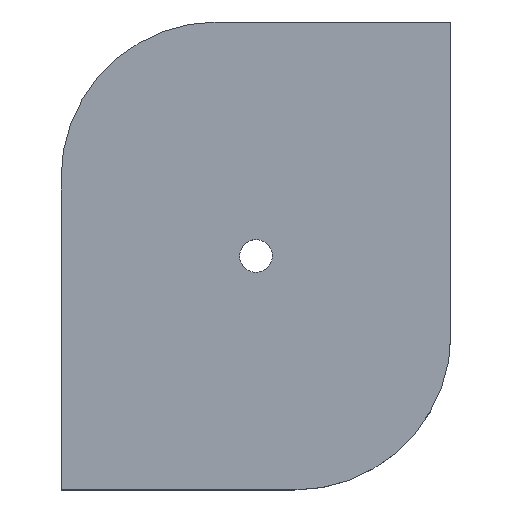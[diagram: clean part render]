
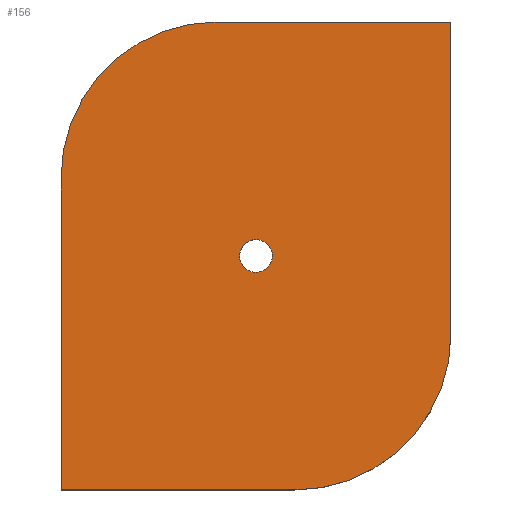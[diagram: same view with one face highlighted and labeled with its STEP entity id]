
A CAD part, top view. The second image highlights one B-rep face of the part: STEP entity #156.
In plain terms, the highlighted planar face has unit normal (0, 0, 1).
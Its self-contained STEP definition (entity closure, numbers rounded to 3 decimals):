
#63=CARTESIAN_POINT('Vertex',(46.325,62.008,15.)) ;
#77=CARTESIAN_POINT('Vertex',(53.675,57.992,15.)) ;
#80=CARTESIAN_POINT('Axis2P3D Location',(50.,60.,15.)) ;
#92=CARTESIAN_POINT('Axis2P3D Location',(0.,0.,15.)) ;
#97=CARTESIAN_POINT('Line Origine',(0.,40.,15.)) ;
#101=CARTESIAN_POINT('Vertex',(0.,80.,15.)) ;
#103=CARTESIAN_POINT('Vertex',(0.,0.,15.)) ;
#106=CARTESIAN_POINT('Line Origine',(30.,0.,15.)) ;
#110=CARTESIAN_POINT('Vertex',(60.,0.,15.)) ;
#113=CARTESIAN_POINT('Axis2P3D Location',(60.,40.,15.)) ;
#117=CARTESIAN_POINT('Vertex',(100.,40.,15.)) ;
#120=CARTESIAN_POINT('Line Origine',(100.,80.,15.)) ;
#124=CARTESIAN_POINT('Vertex',(100.,120.,15.)) ;
#127=CARTESIAN_POINT('Line Origine',(70.,120.,15.)) ;
#131=CARTESIAN_POINT('Vertex',(40.,120.,15.)) ;
#134=CARTESIAN_POINT('Axis2P3D Location',(40.,80.,15.)) ;
#147=CARTESIAN_POINT('Axis2P3D Location',(50.,60.,15.)) ;
#81=DIRECTION('Axis2P3D Direction',(0.,-0.,-1.)) ;
#93=DIRECTION('Axis2P3D Direction',(0.,0.,1.)) ;
#94=DIRECTION('Axis2P3D XDirection',(1.,0.,0.)) ;
#98=DIRECTION('Vector Direction',(0.,-1.,0.)) ;
#107=DIRECTION('Vector Direction',(1.,0.,0.)) ;
#114=DIRECTION('Axis2P3D Direction',(0.,0.,1.)) ;
#121=DIRECTION('Vector Direction',(0.,1.,0.)) ;
#128=DIRECTION('Vector Direction',(-1.,0.,0.)) ;
#135=DIRECTION('Axis2P3D Direction',(0.,0.,1.)) ;
#148=DIRECTION('Axis2P3D Direction',(0.,0.,1.)) ;
#82=AXIS2_PLACEMENT_3D('Circle Axis2P3D',#80,#81,$) ;
#95=AXIS2_PLACEMENT_3D('Plane Axis2P3D',#92,#93,#94) ;
#115=AXIS2_PLACEMENT_3D('Circle Axis2P3D',#113,#114,$) ;
#136=AXIS2_PLACEMENT_3D('Circle Axis2P3D',#134,#135,$) ;
#149=AXIS2_PLACEMENT_3D('Circle Axis2P3D',#147,#148,$) ;
#140=ORIENTED_EDGE('',*,*,#105,.T.) ;
#141=ORIENTED_EDGE('',*,*,#112,.T.) ;
#142=ORIENTED_EDGE('',*,*,#119,.F.) ;
#143=ORIENTED_EDGE('',*,*,#126,.T.) ;
#144=ORIENTED_EDGE('',*,*,#133,.T.) ;
#145=ORIENTED_EDGE('',*,*,#138,.F.) ;
#153=ORIENTED_EDGE('',*,*,#151,.F.) ;
#154=ORIENTED_EDGE('',*,*,#84,.F.) ;
#155=FACE_BOUND('',#152,.T.) ;
#99=VECTOR('Line Direction',#98,1.) ;
#108=VECTOR('Line Direction',#107,1.) ;
#122=VECTOR('Line Direction',#121,1.) ;
#129=VECTOR('Line Direction',#128,1.) ;
#156=ADVANCED_FACE('PartBody',(#146,#155),#96,.T.) ;
#83=CIRCLE('generated circle',#82,4.188) ;
#116=CIRCLE('generated circle',#115,40.) ;
#137=CIRCLE('generated circle',#136,40.) ;
#150=CIRCLE('generated circle',#149,4.188) ;
#84=EDGE_CURVE('',#78,#64,#83,.F.) ;
#105=EDGE_CURVE('',#102,#104,#100,.T.) ;
#112=EDGE_CURVE('',#104,#111,#109,.T.) ;
#119=EDGE_CURVE('',#118,#111,#116,.F.) ;
#126=EDGE_CURVE('',#118,#125,#123,.T.) ;
#133=EDGE_CURVE('',#125,#132,#130,.T.) ;
#138=EDGE_CURVE('',#102,#132,#137,.F.) ;
#151=EDGE_CURVE('',#64,#78,#150,.T.) ;
#139=EDGE_LOOP('',(#140,#141,#142,#143,#144,#145)) ;
#152=EDGE_LOOP('',(#153,#154)) ;
#146=FACE_OUTER_BOUND('',#139,.T.) ;
#100=LINE('Line',#97,#99) ;
#109=LINE('Line',#106,#108) ;
#123=LINE('Line',#120,#122) ;
#130=LINE('Line',#127,#129) ;
#96=PLANE('',#95) ;
#64=VERTEX_POINT('',#63) ;
#78=VERTEX_POINT('',#77) ;
#102=VERTEX_POINT('',#101) ;
#104=VERTEX_POINT('',#103) ;
#111=VERTEX_POINT('',#110) ;
#118=VERTEX_POINT('',#117) ;
#125=VERTEX_POINT('',#124) ;
#132=VERTEX_POINT('',#131) ;
